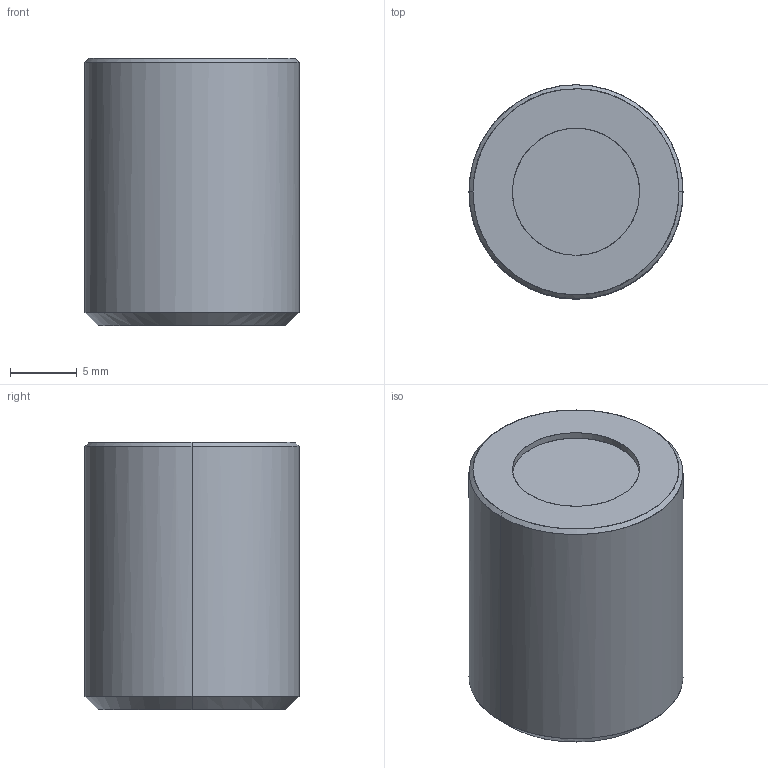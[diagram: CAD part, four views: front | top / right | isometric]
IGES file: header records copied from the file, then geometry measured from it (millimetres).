
Global section: file name: E:\UnigraphicsGraphicData\MISUMI_PRESS-PARTS\IGES\3d_mgn16_00562_r00.igs; native system: NX V5.0; preprocessor: UGS NX IGES V5.0; author: MISUMI; date: 20110105.161419; units: millimetre
Bounding box: 16 x 16 x 20 mm (x, y, z)
Surface area: 1914.6 mm2 (no closed solid volume)
Topology: 0 solids, 0 shells, 22 faces, 144 edges, 144 vertices
Faces by surface type: bspline 22
